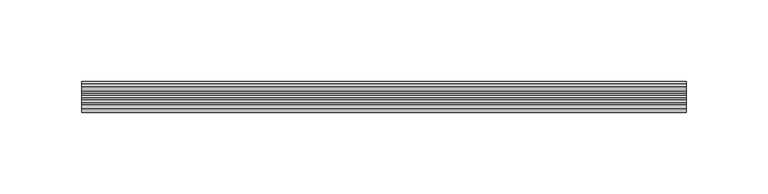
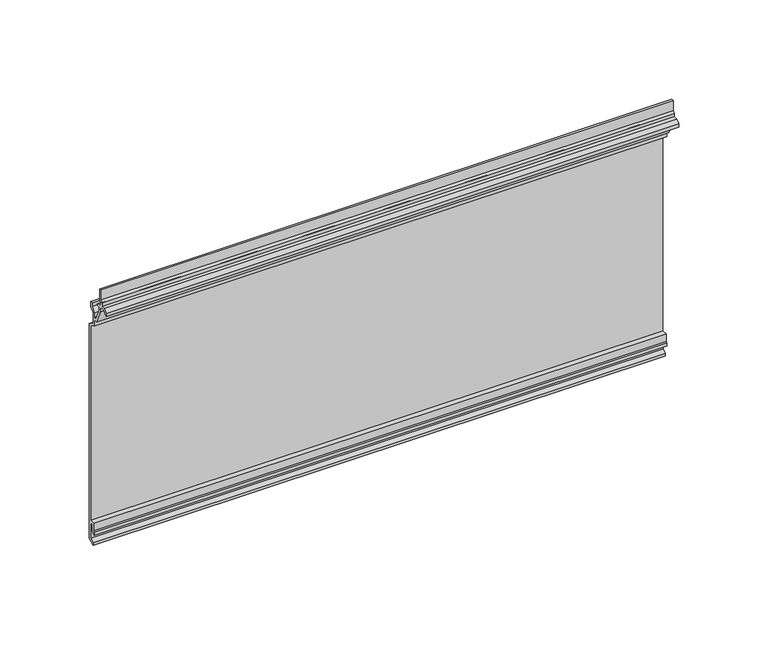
"""IFC4 building model written with IfcOpenShell, lengths in millimetres: plate geometry, FastPlank_P46V-V-Notch-6″-Plank-Horizontal : P46V-V-Notch-6″-Plank-Horizontal."""

from ifc_helpers import new_model, si_unit, frame, origin, place, context, project, spatial, polyline, outline, extrude, source, transform, mapped, element, save


def plate_89dcd24a(model_context):
    return source(origin(), model_context, "Body", "SweptSolid", [
        extrude(outline(polyline([(18.8745946, 2.3957023), (14.7246029, 0.0), (14.7246029, 1.7319938), (17.3745976, 3.2617795), (17.3745976, 13.9827581), (15.5246013, 13.9827581), (15.5246013, 9.9691576), (13.3162936, 7.7608499), (13.3162936, 9.8794005), (14.0246043, 10.5877112), (14.0246043, 15.4863039), (17.5745972, 15.4863039), (17.5745972, 148.4995307), (13.2246059, 151.0109994), (13.2246059, 155.1199676), (10.7243127, 155.1199676), (6.5338639, 164.5069184), (6.5338639, 167.3223922), (5.0811989, 168.1610887), (2.6937325, 168.1610887), (0.0, 165.4673563), (0.0, 167.5854467), (2.1334241, 169.4610861), (4.7821608, 169.4610861), (4.7821608, 171.7897723), (6.0321583, 172.8887309), (6.0321583, 179.7369904), (7.5321553, 179.7369904), (7.5321553, 171.4038751), (6.2821578, 171.4038751), (6.2821578, 168.9369783), (8.8232117, 168.9369783), (10.3184198, 167.7687937), (9.7191932, 167.0018186), (8.0338609, 167.0018186), (8.0338609, 164.7982203), (11.708109, 156.5946482), (13.2246059, 156.5946482), (13.2246059, 159.7821164), (15.8746006, 162.4321111), (15.8746006, 165.1186601), (17.3745976, 165.1186601), (17.3745976, 161.810792), (14.7246029, 159.1607973), (14.7246029, 151.6460834), (18.8745946, 149.2500846), (18.8745946, 2.3957023)])), frame((-184.7615925, 0.0, 0.0), z_axis=(1.0, 0.0, 0.0), x_axis=(0.0, 1.0, 0.0)), (0.0, 0.0, 1.0), 369.5231851),
    ])


if __name__ == "__main__":
    model = new_model("IFC4")
    model_context = context("Model", 3, world=origin())
    ifc_project = project(units=[si_unit("LENGTHUNIT", "METRE", prefix="MILLI")], contexts=[model_context])
    site = spatial("IfcSite", under=ifc_project)
    building = spatial("IfcBuilding", under=site)
    placement = place(None, origin())
    plate_shape = plate_89dcd24a(model_context)
    element("IfcPlate", 1, ObjectType="FastPlank_P46V-V-Notch-6″-Plank-Horizontal : P46V-V-Notch-6″-Plank-Horizontal", at=placement, inside=building, context=model_context, shape_type="MappedRepresentation", body=[
        mapped(plate_shape, transform((0.0, 0.0, 0.0), x_axis=(1.0, 0.0, 0.0), y_axis=(0.0, 1.0, 0.0), z_axis=(0.0, 0.0, 1.0))),
    ])
    save(model, "model.ifc")
